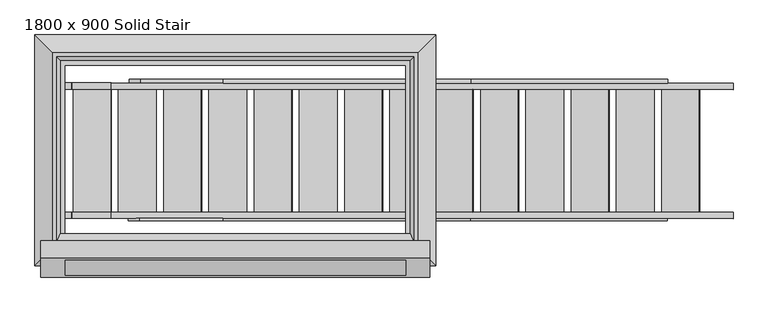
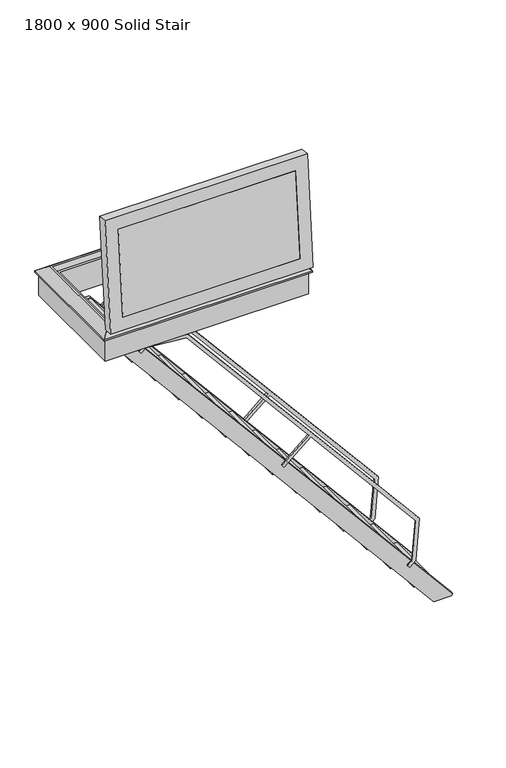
"""IFC4 building model written with IfcOpenShell, lengths in millimetres: proxy geometry, 4_Topaccess_dakluik_1800x900_Staka : 1800 x 900 Solid Stair."""

from ifc_helpers import new_model, si_unit, point, frame, frame_2d, origin, place, context, project, spatial, polyline, circle_curve, trimmed, segment, composite_curve, outline, extrude, faceted_brep, source, transform, mapped, element, save


def proxy_1800_x_900_solid_stair_56eae442(model_context):
    return source(origin(), model_context, "Body", "SolidModel", [
        extrude(outline(polyline([(-3725.9037973, 1728.6273524), (-3725.9037973, 1528.6273524), (-3745.8276912, 1528.6273524), (-3745.8276912, 1730.3704673), (-3725.9037973, 1728.6273524)])), frame((0.0, -93.1671208, 0.0), z_axis=(0.0, 1.0, 0.0), x_axis=(0.0, 0.0, 1.0)), (0.0, 0.0, 1.0), 650.0),
        extrude(outline(polyline([(-3439.882935, 1488.6273524), (-3439.882935, 1288.6273524), (-3459.806829, 1288.6273524), (-3459.806829, 1490.3704673), (-3439.882935, 1488.6273524)])), frame((0.0, -93.1671208, 0.0), z_axis=(0.0, 1.0, 0.0), x_axis=(0.0, 0.0, 1.0)), (0.0, 0.0, 1.0), 650.0),
        extrude(outline(polyline([(-3153.8620728, 1248.6273524), (-3153.8620728, 1048.6273524), (-3173.7859668, 1048.6273524), (-3173.7859668, 1250.3704673), (-3153.8620728, 1248.6273524)])), frame((0.0, -93.1671208, 0.0), z_axis=(0.0, 1.0, 0.0), x_axis=(0.0, 0.0, 1.0)), (0.0, 0.0, 1.0), 650.0),
        extrude(outline(polyline([(-2867.8412106, 1008.6273524), (-2867.8412106, 808.6273524), (-2887.7651046, 808.6273524), (-2887.7651046, 1010.3704673), (-2867.8412106, 1008.6273524)])), frame((0.0, -93.1671208, 0.0), z_axis=(0.0, 1.0, 0.0), x_axis=(0.0, 0.0, 1.0)), (0.0, 0.0, 1.0), 650.0),
        extrude(outline(polyline([(-2581.8203484, 768.6273524), (-2581.8203484, 568.6273524), (-2601.7442423, 568.6273524), (-2601.7442423, 770.3704673), (-2581.8203484, 768.6273524)])), frame((0.0, -93.1671208, 0.0), z_axis=(0.0, 1.0, 0.0), x_axis=(0.0, 0.0, 1.0)), (0.0, 0.0, 1.0), 650.0),
        extrude(outline(polyline([(-2295.7994862, 528.6273524), (-2295.7994862, 328.6273524), (-2315.7233801, 328.6273524), (-2315.7233801, 530.3704673), (-2295.7994862, 528.6273524)])), frame((0.0, -93.1671208, 0.0), z_axis=(0.0, 1.0, 0.0), x_axis=(0.0, 0.0, 1.0)), (0.0, 0.0, 1.0), 650.0),
        extrude(outline(polyline([(-2009.7786239, 288.6273524), (-2009.7786239, 88.6273524), (-2029.7025179, 88.6273524), (-2029.7025179, 290.3704673), (-2009.7786239, 288.6273524)])), frame((0.0, -93.1671208, 0.0), z_axis=(0.0, 1.0, 0.0), x_axis=(0.0, 0.0, 1.0)), (0.0, 0.0, 1.0), 650.0),
        extrude(outline(polyline([(-1723.7577617, 48.6273524), (-1723.7577617, -151.3726476), (-1743.6816557, -151.3726476), (-1743.6816557, 50.3704673), (-1723.7577617, 48.6273524)])), frame((0.0, -93.1671208, 0.0), z_axis=(0.0, 1.0, 0.0), x_axis=(0.0, 0.0, 1.0)), (0.0, 0.0, 1.0), 650.0),
        extrude(outline(polyline([(-7.6325884, -1391.3726476), (-7.6325884, -1591.3726476), (-27.5564823, -1591.3726476), (-27.5564823, -1389.6295327), (-7.6325884, -1391.3726476)])), frame((0.0, -93.1671208, 0.0), z_axis=(0.0, 1.0, 0.0), x_axis=(0.0, 0.0, 1.0)), (0.0, 0.0, 1.0), 650.0),
        extrude(outline(polyline([(-1437.7368995, -191.3726476), (-1437.7368995, -391.3726476), (-1457.6607934, -391.3726476), (-1457.6607934, -189.6295327), (-1437.7368995, -191.3726476)])), frame((0.0, -93.1671208, 0.0), z_axis=(0.0, 1.0, 0.0), x_axis=(0.0, 0.0, 1.0)), (0.0, 0.0, 1.0), 650.0),
        extrude(outline(polyline([(-1151.7160373, -431.3726476), (-1151.7160373, -631.3726476), (-1171.6399312, -631.3726476), (-1171.6399312, -429.6295327), (-1151.7160373, -431.3726476)])), frame((0.0, -93.1671208, 0.0), z_axis=(0.0, 1.0, 0.0), x_axis=(0.0, 0.0, 1.0)), (0.0, 0.0, 1.0), 650.0),
        extrude(outline(polyline([(-865.695175, -671.3726476), (-865.695175, -871.3726476), (-885.619069, -871.3726476), (-885.619069, -669.6295327), (-865.695175, -671.3726476)])), frame((0.0, -93.1671208, 0.0), z_axis=(0.0, 1.0, 0.0), x_axis=(0.0, 0.0, 1.0)), (0.0, 0.0, 1.0), 650.0),
        extrude(outline(polyline([(-579.6743128, -911.3726476), (-579.6743128, -1111.3726476), (-599.5982068, -1111.3726476), (-599.5982068, -909.6295327), (-579.6743128, -911.3726476)])), frame((0.0, -93.1671208, 0.0), z_axis=(0.0, 1.0, 0.0), x_axis=(0.0, 0.0, 1.0)), (0.0, 0.0, 1.0), 650.0),
        extrude(outline(polyline([(-293.6534506, -1151.3726476), (-293.6534506, -1351.3726476), (-313.5773446, -1351.3726476), (-313.5773446, -1149.6295327), (-293.6534506, -1151.3726476)])), frame((0.0, -93.1671208, 0.0), z_axis=(0.0, 1.0, 0.0), x_axis=(0.0, 0.0, 1.0)), (0.0, 0.0, 1.0), 650.0),
        extrude(outline(polyline([(-141.0692891, -1236.6086774), (-192.4922979, -1297.8922329), (-217.7717645, -1276.6802418), (-175.1350501, -1225.8677842), (-211.100905, -814.7761825), (-1694.5137463, 429.9549856), (-1924.7133341, 155.6137997), (-1949.9928007, 176.8257909), (-1719.7932129, 451.1669767), (-1763.360471, 487.7242469), (-2997.7115931, 1523.4678182), (-3408.8031949, 1487.5019634), (-3451.4399092, 1436.6895059), (-3476.7193759, 1457.901497), (-3425.2963671, 1519.1850524), (-2986.9706999, 1557.5335792), (-1742.1484799, 513.0037135), (-179.4178159, -798.2830103), (-141.0692891, -1236.6086774)])), frame((0.0, -139.5276803, 0.0), z_axis=(0.0, 1.0, 0.0), x_axis=(0.0, 0.0, 1.0)), (0.0, 0.0, 1.0), 12.3605595),
        extrude(outline(polyline([(-137.855351, -1232.7784552), (-189.2783598, -1294.0620107), (-214.5578264, -1272.8500195), (-171.9211121, -1222.037562), (-207.8869669, -810.9459603), (-1691.2998082, 433.7852078), (-1921.4993961, 159.444022), (-1946.7788627, 180.6560131), (-1716.5792749, 454.9971989), (-1760.1465329, 491.5544691), (-2994.4976551, 1527.2980404), (-3405.5892568, 1491.3321856), (-3448.2259712, 1440.5197281), (-3473.5054378, 1461.7317192), (-3422.082429, 1523.0152746), (-2983.7567619, 1561.3638014), (-1738.9345418, 516.8339357), (-176.2038779, -794.4527881), (-137.855351, -1232.7784552)])), frame((0.0, 590.8328792, 0.0), z_axis=(0.0, 1.0, 0.0), x_axis=(0.0, 0.0, 1.0)), (0.0, 0.0, 1.0), 19.5664198),
        extrude(outline(polyline([(-35.0743917, -1568.3462405), (-0.0119954, -1597.7670843), (0.0, -1631.2697623), (-35.0518623, -1631.2697623), (-35.0743917, -1568.3462405)])), frame((0.0, 556.8328792, 0.0), z_axis=(0.0, 1.0, 0.0), x_axis=(0.0, 0.0, 1.0)), (0.0, 0.0, 1.0), 34.0),
        extrude(outline(polyline([(-0.0119954, -1597.7670843), (0.0, -1631.2697623), (-35.0518623, -1631.2697623), (-35.0743917, -1568.3462405), (-0.0119954, -1597.7670843)])), frame((0.0, -127.1671208, 0.0), z_axis=(0.0, 1.0, 0.0), x_axis=(0.0, 0.0, 1.0)), (0.0, 0.0, 1.0), 34.0),
        extrude(outline(polyline([(-3928.3534543, 1907.3679513), (-0.0119954, -1388.901918), (-0.0119954, -1597.7670843), (-3941.8407861, 1709.8200001), (-3941.8407861, 1891.2943753), (-3928.3534543, 1907.3679513)])), frame((0.0, -127.1671208, 0.0), z_axis=(0.0, 1.0, 0.0), x_axis=(0.0, 0.0, 1.0)), (0.0, 0.0, 1.0), 34.0),
        extrude(outline(polyline([(-3928.3534543, 1907.3679513), (-0.0119954, -1388.901918), (-0.0119954, -1597.7670843), (-3941.8407861, 1709.8200001), (-3941.8407861, 1891.2943753), (-3928.3534543, 1907.3679513)])), frame((0.0, 556.8328792, 0.0), z_axis=(0.0, 1.0, 0.0), x_axis=(0.0, 0.0, 1.0)), (0.0, 0.0, 1.0), 34.0),
        extrude(outline(composite_curve([segment(polyline([(-302.711611, 315.0730348), (-349.5637396, 277.5913319), (-356.6205052, 286.4122889)]), True, "CONTINUOUS"), segment(trimmed(circle_curve(frame_2d((-342.0155368, 294.972668)), 16.9288273), [point((-356.6205052, 286.4122889))], [point((-358.9229191, 295.8244977))], False, "CARTESIAN"), True, "CONTINUOUS"), segment(polyline([(-358.9229191, 295.8244977), (-354.6794851, 338.8702959)]), True, "CONTINUOUS"), segment(trimmed(circle_curve(frame_2d((-348.2257803, 336.7195897)), 6.8026351), [point((-354.6794851, 338.8702959))], [point((-341.4884418, 335.7793158))], False, "CARTESIAN"), True, "CONTINUOUS"), segment(trimmed(circle_curve(frame_2d((-333.9382435, 334.7255979)), 7.623373), [point((-341.4884418, 335.7793158))], [point((-336.5780951, 327.5738849))], True, "CARTESIAN"), True, "CONTINUOUS"), segment(polyline([(-336.5780951, 327.5738849), (-302.711611, 315.0730348)]), True, "CONTINUOUS")], self_intersect=False)), frame((-1631.2697623, 0.0, 0.0), z_axis=(1.0, 0.0, 0.0), x_axis=(0.0, 1.0, 0.0)), (0.0, 0.0, 1.0), 36.756804),
        extrude(outline(composite_curve([segment(polyline([(-302.711611, 315.0730348), (-349.5637396, 277.5913319), (-356.6205052, 286.4122889)]), True, "CONTINUOUS"), segment(trimmed(circle_curve(frame_2d((-342.0155368, 294.972668)), 16.9288273), [point((-356.6205052, 286.4122889))], [point((-358.9229191, 295.8244977))], False, "CARTESIAN"), True, "CONTINUOUS"), segment(polyline([(-358.9229191, 295.8244977), (-354.6794851, 338.8702959)]), True, "CONTINUOUS"), segment(trimmed(circle_curve(frame_2d((-348.2257803, 336.7195897)), 6.8026351), [point((-354.6794851, 338.8702959))], [point((-341.4884418, 335.7793158))], False, "CARTESIAN"), True, "CONTINUOUS"), segment(trimmed(circle_curve(frame_2d((-333.9382435, 334.7255979)), 7.623373), [point((-341.4884418, 335.7793158))], [point((-336.5780951, 327.5738849))], True, "CARTESIAN"), True, "CONTINUOUS"), segment(polyline([(-336.5780951, 327.5738849), (-302.711611, 315.0730348)]), True, "CONTINUOUS")], self_intersect=False)), frame((133.4587171, 0.0, 0.0), z_axis=(1.0, 0.0, 0.0), x_axis=(0.0, 1.0, 0.0)), (0.0, 0.0, 1.0), 35.2715206),
        faceted_brep([(238.7302377, 753.4470955, 328.0), (330.7302377, 845.4470955, 254.4), (-1793.2697623, 845.4470955, 254.4), (-1701.2697623, 753.4470955, 328.0), (194.7302377, 709.4470955, 282.0), (214.2560792, 728.9729371, 328.0), (-1676.7956039, 728.9729371, 328.0), (-1657.2697623, 709.4470955, 282.0), (168.7302377, 683.4470955, 0.0), (168.7302377, 683.4470955, 282.0), (-1631.2697623, 683.4470955, 282.0), (-1631.2697623, 683.4470955, 0.0), (304.7302377, 819.4470955, 240.0), (304.7302377, 819.4470955, 0.0), (-1767.2697623, 819.4470955, 0.0), (-1767.2697623, 819.4470955, 240.0), (330.7302377, 845.4470955, 240.0), (-1793.2697623, 845.4470955, 240.0), (-1793.2697623, -378.5529045, 254.4), (-1701.2697623, -286.5529045, 328.0), (-1676.7956039, -262.078746, 328.0), (-1657.2697623, -242.5529045, 282.0), (-1631.2697623, -216.5529045, 282.0), (-1631.2697623, -216.5529045, 0.0), (-1767.2697623, -352.5529045, 0.0), (-1767.2697623, -352.5529045, 240.0), (-1793.2697623, -378.5529045, 240.0), (330.7302377, -378.5529045, 254.4), (238.7302377, -286.5529045, 328.0), (214.2560792, -262.078746, 328.0), (194.7302377, -242.5529045, 282.0), (168.7302377, -216.5529045, 282.0), (168.7302377, -216.5529045, 0.0), (304.7302377, -352.5529045, 0.0), (304.7302377, -352.5529045, 240.0), (330.7302377, -378.5529045, 240.0)], [[[0, 1, 2, 3]], [[4, 5, 6, 7]], [[8, 9, 10, 11]], [[12, 13, 14, 15]], [[1, 16, 17, 2]], [[3, 2, 18, 19]], [[7, 6, 20, 21]], [[11, 10, 22, 23]], [[15, 14, 24, 25]], [[2, 17, 26, 18]], [[19, 18, 27, 28]], [[21, 20, 29, 30]], [[23, 22, 31, 32]], [[25, 24, 33, 34]], [[18, 26, 35, 27]], [[28, 27, 1, 0]], [[3, 19, 28, 0], [5, 29, 20, 6]], [[30, 29, 5, 4]], [[7, 21, 30, 4], [9, 31, 22, 10]], [[32, 31, 9, 8]], [[13, 33, 24, 14], [11, 23, 32, 8]], [[34, 33, 13, 12]], [[16, 35, 26, 17], [15, 25, 34, 12]], [[27, 35, 16, 1]]]),
        extrude(outline(polyline([(0.0, -1805.0), (0.0, 0.0), (139.4, 0.0), (139.4, -1805.0), (0.0, -1805.0)])), frame((-1633.2725908, -428.8183427, 470.0146001), z_axis=(0.0, 0.08715574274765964, 0.9961946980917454), x_axis=(0.0, 0.9961946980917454, -0.08715574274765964)), (0.0, 0.0, 1.0), 904.0),
        faceted_brep([(171.7274092, -211.1600104, 1358.4250967), (171.7274092, -350.0295513, 1370.5746072), (-1633.2725908, -350.0295513, 1370.5746072), (-1633.2725908, -211.1600104, 1358.4250967), (214.7274092, -253.6357474, 1405.3054951), (197.1274092, -208.9462545, 1383.728442), (-1658.6725908, -208.9462545, 1383.728442), (-1676.2725908, -253.6357474, 1405.3054951), (300.7274092, -338.7864605, 1499.0837233), (300.7274092, -246.1403535, 1490.9782392), (-1762.2725908, -246.1403535, 1490.9782392), (-1762.2725908, -338.7864605, 1499.0837233), (-1633.2725908, -428.8183427, 470.0146001), (-1633.2725908, -289.9488018, 457.8650896), (-1658.6725908, -292.1625577, 432.5617443), (-1676.2725908, -339.9199327, 419.072744), (-1762.2725908, -347.4153266, 333.4), (-1762.2725908, -440.0614335, 341.5054841), (171.7274092, -428.8183427, 470.0146001), (171.7274092, -289.9488018, 457.8650896), (197.1274092, -292.1625577, 432.5617443), (214.7274092, -339.9199327, 419.072744), (300.7274092, -347.4153266, 333.4), (300.7274092, -440.0614335, 341.5054841)], [[[0, 1, 2, 3]], [[4, 5, 6, 7]], [[8, 9, 10, 11]], [[3, 2, 12, 13]], [[7, 6, 14, 15]], [[11, 10, 16, 17]], [[13, 12, 18, 19]], [[15, 14, 20, 21]], [[17, 16, 22, 23]], [[19, 18, 1, 0]], [[5, 20, 14, 6], [3, 13, 19, 0]], [[21, 20, 5, 4]], [[9, 22, 16, 10], [7, 15, 21, 4]], [[23, 22, 9, 8]], [[11, 17, 23, 8], [1, 18, 12, 2]]]),
    ])


if __name__ == "__main__":
    model = new_model("IFC4")
    model_context = context("Model", 3, world=origin())
    ifc_project = project(units=[si_unit("LENGTHUNIT", "METRE", prefix="MILLI")], contexts=[model_context])
    site = spatial("IfcSite", under=ifc_project)
    building = spatial("IfcBuilding", under=site)
    placement = place(None, origin())
    proxy_1800_x_900_solid_stair_shape = proxy_1800_x_900_solid_stair_56eae442(model_context)
    element("IfcBuildingElementProxy", 1, Name="4_Topaccess_dakluik_1800x900_Staka : 1800 x 900 Solid Stair", ObjectType="4_Topaccess_dakluik_1800x900_Staka : 1800 x 900 Solid Stair", at=placement, inside=building, context=model_context, shape_type="MappedRepresentation", body=[
        mapped(proxy_1800_x_900_solid_stair_shape, transform((0.0, 0.0, 0.0), x_axis=(1.0, 0.0, 0.0), y_axis=(0.0, 1.0, 0.0), z_axis=(0.0, 0.0, 1.0))),
    ])
    save(model, "model.ifc")
